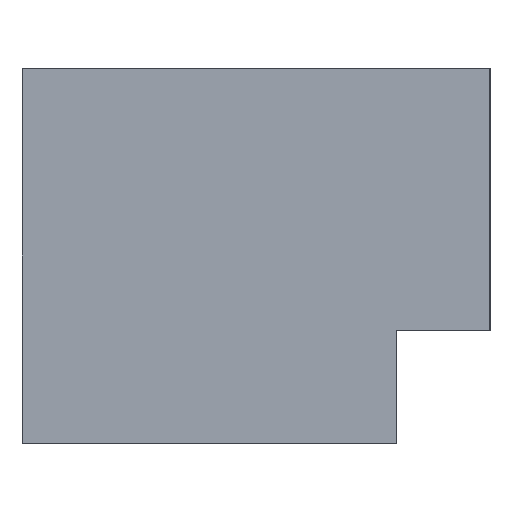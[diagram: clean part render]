
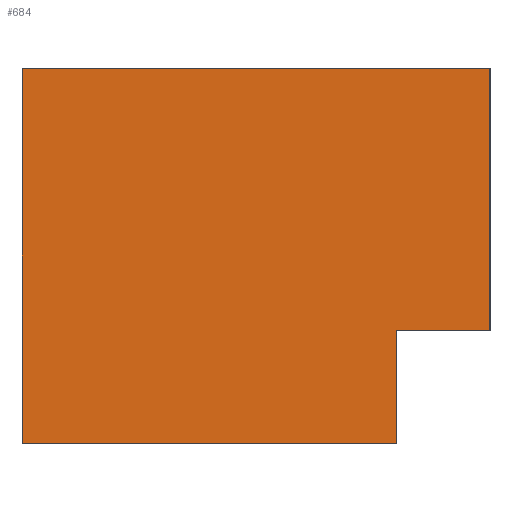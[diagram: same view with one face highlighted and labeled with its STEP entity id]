
A CAD part, left-side view. The second image highlights one B-rep face of the part: STEP entity #684.
In plain terms, the highlighted planar face has unit normal (1, 0, 0).
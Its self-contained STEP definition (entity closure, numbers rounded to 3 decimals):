
#629=CARTESIAN_POINT('Axis2P3D Location',(-40.,0.,0.)) ;
#634=CARTESIAN_POINT('Line Origine',(-40.,-22.5,-4.)) ;
#638=CARTESIAN_POINT('Vertex',(-40.,-25.,-4.)) ;
#640=CARTESIAN_POINT('Vertex',(-40.,-20.,-4.)) ;
#643=CARTESIAN_POINT('Line Origine',(-40.,-20.,-7.)) ;
#647=CARTESIAN_POINT('Vertex',(-40.,-20.,-10.)) ;
#650=CARTESIAN_POINT('Line Origine',(-40.,-10.,-10.)) ;
#654=CARTESIAN_POINT('Vertex',(-40.,0.,-10.)) ;
#657=CARTESIAN_POINT('Line Origine',(-40.,0.,0.)) ;
#661=CARTESIAN_POINT('Vertex',(-40.,0.,10.)) ;
#664=CARTESIAN_POINT('Line Origine',(-40.,-12.5,10.)) ;
#668=CARTESIAN_POINT('Vertex',(-40.,-25.,10.)) ;
#671=CARTESIAN_POINT('Line Origine',(-40.,-25.,3.)) ;
#630=DIRECTION('Axis2P3D Direction',(1.,0.,0.)) ;
#631=DIRECTION('Axis2P3D XDirection',(0.,1.,0.)) ;
#635=DIRECTION('Vector Direction',(0.,1.,0.)) ;
#644=DIRECTION('Vector Direction',(0.,0.,-1.)) ;
#651=DIRECTION('Vector Direction',(0.,1.,0.)) ;
#658=DIRECTION('Vector Direction',(0.,0.,1.)) ;
#665=DIRECTION('Vector Direction',(0.,-1.,0.)) ;
#672=DIRECTION('Vector Direction',(0.,0.,-1.)) ;
#632=AXIS2_PLACEMENT_3D('Plane Axis2P3D',#629,#630,#631) ;
#677=ORIENTED_EDGE('',*,*,#642,.T.) ;
#678=ORIENTED_EDGE('',*,*,#649,.T.) ;
#679=ORIENTED_EDGE('',*,*,#656,.T.) ;
#680=ORIENTED_EDGE('',*,*,#663,.T.) ;
#681=ORIENTED_EDGE('',*,*,#670,.T.) ;
#682=ORIENTED_EDGE('',*,*,#675,.T.) ;
#636=VECTOR('Line Direction',#635,1.) ;
#645=VECTOR('Line Direction',#644,1.) ;
#652=VECTOR('Line Direction',#651,1.) ;
#659=VECTOR('Line Direction',#658,1.) ;
#666=VECTOR('Line Direction',#665,1.) ;
#673=VECTOR('Line Direction',#672,1.) ;
#684=ADVANCED_FACE('MANIFOLD_SOLID_BREP #3064',(#683),#633,.T.) ;
#642=EDGE_CURVE('',#639,#641,#637,.T.) ;
#649=EDGE_CURVE('',#641,#648,#646,.T.) ;
#656=EDGE_CURVE('',#648,#655,#653,.T.) ;
#663=EDGE_CURVE('',#655,#662,#660,.T.) ;
#670=EDGE_CURVE('',#662,#669,#667,.T.) ;
#675=EDGE_CURVE('',#669,#639,#674,.T.) ;
#676=EDGE_LOOP('',(#677,#678,#679,#680,#681,#682)) ;
#683=FACE_OUTER_BOUND('',#676,.T.) ;
#637=LINE('Line',#634,#636) ;
#646=LINE('Line',#643,#645) ;
#653=LINE('Line',#650,#652) ;
#660=LINE('Line',#657,#659) ;
#667=LINE('Line',#664,#666) ;
#674=LINE('Line',#671,#673) ;
#633=PLANE('Plane',#632) ;
#639=VERTEX_POINT('',#638) ;
#641=VERTEX_POINT('',#640) ;
#648=VERTEX_POINT('',#647) ;
#655=VERTEX_POINT('',#654) ;
#662=VERTEX_POINT('',#661) ;
#669=VERTEX_POINT('',#668) ;
